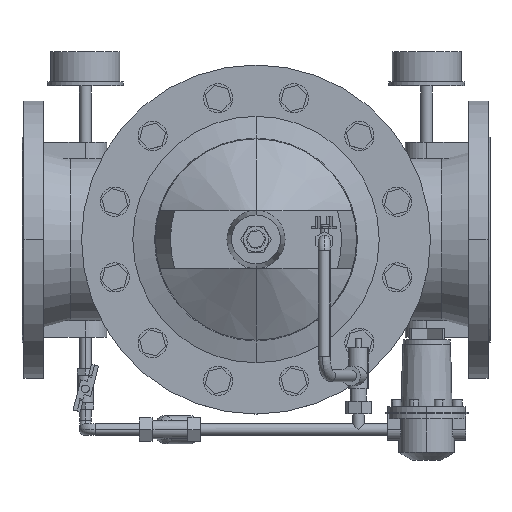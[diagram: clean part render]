
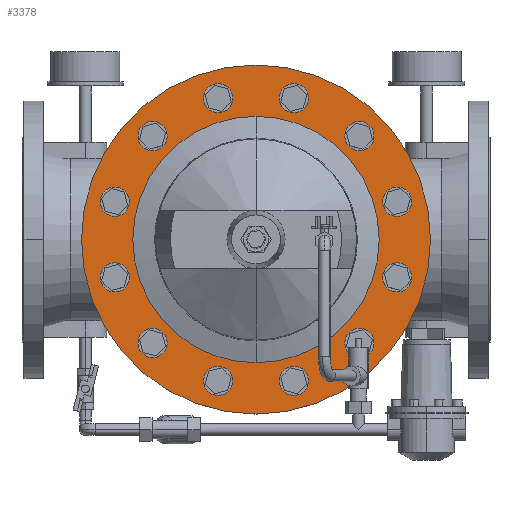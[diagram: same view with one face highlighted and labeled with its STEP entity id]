
A CAD part, top view. The second image highlights one B-rep face of the part: STEP entity #3378.
In plain terms, the highlighted planar face has unit normal (0, 0, 1).
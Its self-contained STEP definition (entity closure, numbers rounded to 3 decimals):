
#3378=ADVANCED_FACE('',(#7084,#7085),#7086,.T.);
#7084=FACE_BOUND('',#12463,.T.);
#7085=FACE_OUTER_BOUND('',#12464,.T.);
#7086=PLANE('',#12465);
#12463=EDGE_LOOP('',(#17167,#17168));
#12464=EDGE_LOOP('',(#17169,#17170));
#12465=AXIS2_PLACEMENT_3D('',#17171,#17172,#17173);
#17167=ORIENTED_EDGE('',*,*,#28304,.F.);
#17168=ORIENTED_EDGE('',*,*,#28305,.F.);
#17169=ORIENTED_EDGE('',*,*,#28306,.T.);
#17170=ORIENTED_EDGE('',*,*,#28307,.T.);
#17171=CARTESIAN_POINT('',(240.0,152.7,151.0));
#17172=DIRECTION('',(0.,0.,1.0));
#17173=DIRECTION('',(0.,1.0,0.));
#28304=EDGE_CURVE('',#33012,#33013,#33014,.T.);
#28305=EDGE_CURVE('',#33013,#33012,#33015,.T.);
#28306=EDGE_CURVE('',#33016,#33017,#33018,.T.);
#28307=EDGE_CURVE('',#33017,#33016,#33019,.T.);
#33012=VERTEX_POINT('',#39715);
#33013=VERTEX_POINT('',#39716);
#33014=CIRCLE('',#39717,126.4);
#33015=CIRCLE('',#39718,126.4);
#33016=VERTEX_POINT('',#39719);
#33017=VERTEX_POINT('',#39720);
#33018=CIRCLE('',#39721,179.0);
#33019=CIRCLE('',#39722,179.0);
#39715=CARTESIAN_POINT('',(240.0,126.4,151.0));
#39716=CARTESIAN_POINT('',(240.0,-126.4,151.0));
#39717=AXIS2_PLACEMENT_3D('',#49560,#49561,#49562);
#39718=AXIS2_PLACEMENT_3D('',#49563,#49564,#49565);
#39719=CARTESIAN_POINT('',(240.0,179.0,151.0));
#39720=CARTESIAN_POINT('',(240.0,-179.0,151.0));
#39721=AXIS2_PLACEMENT_3D('',#49566,#49567,#49568);
#39722=AXIS2_PLACEMENT_3D('',#49569,#49570,#49571);
#49560=CARTESIAN_POINT('',(240.0,0.0,151.0));
#49561=DIRECTION('',(0.,0.,1.0));
#49562=DIRECTION('',(0.,1.0,0.));
#49563=CARTESIAN_POINT('',(240.0,0.0,151.0));
#49564=DIRECTION('',(0.,0.,1.0));
#49565=DIRECTION('',(0.,1.0,0.));
#49566=CARTESIAN_POINT('',(240.0,0.0,151.0));
#49567=DIRECTION('',(0.,0.,1.0));
#49568=DIRECTION('',(0.,1.0,0.));
#49569=CARTESIAN_POINT('',(240.0,0.0,151.0));
#49570=DIRECTION('',(0.,0.,1.0));
#49571=DIRECTION('',(0.,1.0,0.));
